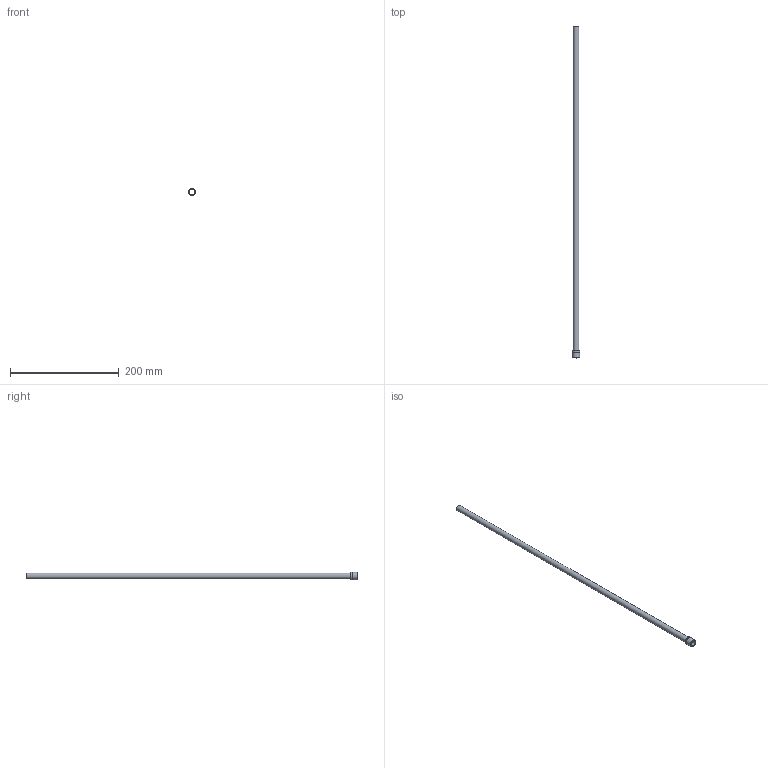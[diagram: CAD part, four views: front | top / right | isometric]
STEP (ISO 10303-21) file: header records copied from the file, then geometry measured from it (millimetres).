
FILE_DESCRIPTION(/* description */ (''),/* implementation_level */ '2;1');
FILE_NAME(/* name */ 'C:/Users/drich/Desktop/JHF437T-24 v1.step',/* time_stamp */ '2020-01-02T20:03:42-06:00',/* author */ (''),/* organization */ (''),/* preprocessor_version */ 'ST-DEVELOPER v18',/* originating_system */ 'Autodesk Translation Framework v8.12.0.6',/* authorisation */ '');
FILE_SCHEMA (('AUTOMOTIVE_DESIGN { 1 0 10303 214 3 1 1 }'));
Length unit declared in the file: inch
Products named in the file (1): JHF437T-24
Bounding box: 14.33 x 609.6 x 14.33 mm (x, y, z)
Volume: 8522.5 mm3; surface area: 40370.5 mm2
Topology: 1 solids, 1 shells, 10 faces, 24 edges, 18 vertices
Faces by surface type: cylinder 4, plane 4, cone 1, torus 1
Full cylindrical faces by diameter (mm): 10.084 x1, 10.846 x1, 14.176 x1, 14.326 x1
Entity records: 354 total; most frequent: DIRECTION 65, CARTESIAN_POINT 53, ORIENTED_EDGE 48, AXIS2_PLACEMENT_3D 30, EDGE_CURVE 24, CIRCLE 19, VERTEX_POINT 18, EDGE_LOOP 14
